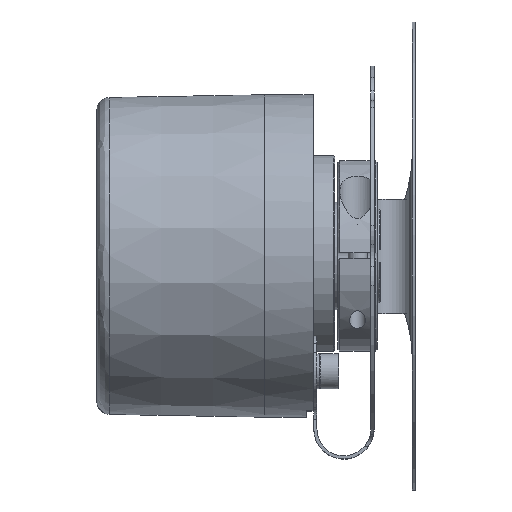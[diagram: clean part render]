
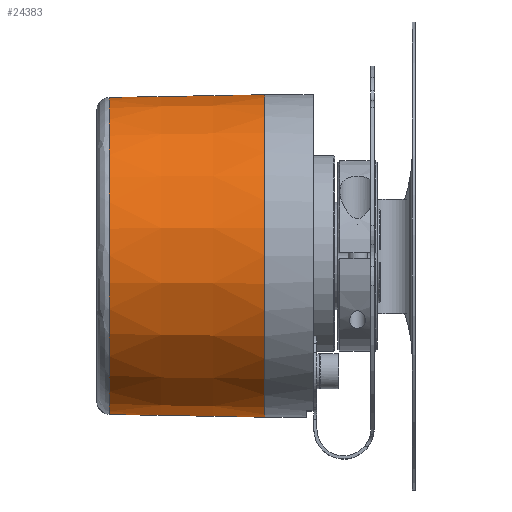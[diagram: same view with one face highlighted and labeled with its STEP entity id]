
A CAD part, top view. The second image highlights one B-rep face of the part: STEP entity #24383.
In plain terms, the highlighted conical face has half-angle 1 degrees and reference radius 25.4 mm.
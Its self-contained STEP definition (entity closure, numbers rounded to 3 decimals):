
#1918 = CARTESIAN_POINT ( 'NONE',  ( 4.375, 15.953, -19.741 ) ) ;
#2340 = VERTEX_POINT ( 'NONE', #3000 ) ;
#2369 = DIRECTION ( 'NONE',  ( 0., 0., 1. ) ) ;
#2432 = CARTESIAN_POINT ( 'NONE',  ( -19., 16.728, -18.542 ) ) ;
#2462 = CARTESIAN_POINT ( 'NONE',  ( -19.012, 16.728, -18.541 ) ) ;
#2571 = CARTESIAN_POINT ( 'NONE',  ( -19.035, 16.728, -18.541 ) ) ;
#2640 = CARTESIAN_POINT ( 'NONE',  ( -19.023, 16.728, -18.541 ) ) ;
#3000 = CARTESIAN_POINT ( 'NONE',  ( 5.5, 12.989, -21.828 ) ) ;
#4783 = CARTESIAN_POINT ( 'NONE',  ( 4.727, -15.562, -20.058 ) ) ;
#5470 = ORIENTED_EDGE ( 'NONE', *, *, #16335, .F. ) ;
#6089 = ORIENTED_EDGE ( 'NONE', *, *, #15688, .T. ) ;
#6221 = CARTESIAN_POINT ( 'NONE',  ( 3.5, 16.319, -19.418 ) ) ;
#6304 = VERTEX_POINT ( 'NONE', #9780 ) ;
#6505 = VERTEX_POINT ( 'NONE', #6221 ) ;
#6628 = FACE_OUTER_BOUND ( 'NONE', #15445, .T. ) ;
#7233 = CARTESIAN_POINT ( 'NONE',  ( -19., -16.728, -18.542 ) ) ;
#7583 = CARTESIAN_POINT ( 'NONE',  ( 5.317, -14.347, -20.96 ) ) ;
#8033 = CARTESIAN_POINT ( 'NONE',  ( 3.5, -16.319, -19.418 ) ) ;
#8344 = CARTESIAN_POINT ( 'NONE',  ( -19.035, -16.728, -18.541 ) ) ;
#8346 = VERTEX_POINT ( 'NONE', #7233 ) ;
#8371 = CARTESIAN_POINT ( 'NONE',  ( -19.023, -16.728, -18.541 ) ) ;
#8457 = CARTESIAN_POINT ( 'NONE',  ( -19., -16.728, -18.542 ) ) ;
#8575 = CARTESIAN_POINT ( 'NONE',  ( -19.012, -16.728, -18.541 ) ) ;
#9780 = CARTESIAN_POINT ( 'NONE',  ( 5.5, -12.989, -21.828 ) ) ;
#10687 = AXIS2_PLACEMENT_3D ( 'NONE', #14669, #14513, #14346 ) ;
#11761 = B_SPLINE_CURVE_WITH_KNOTS ( 'NONE', 3,
 ( #2571, #2640, #2462, #2432 ),
 .UNSPECIFIED., .F., .F.,
 ( 4, 4 ),
 ( 0., 0. ),
 .UNSPECIFIED. ) ;
#12071 = B_SPLINE_CURVE_WITH_KNOTS ( 'NONE', 3,
 ( #8457, #8575, #8371, #8344 ),
 .UNSPECIFIED., .F., .F.,
 ( 4, 4 ),
 ( 0., 0. ),
 .UNSPECIFIED. ) ;
#12202 = AXIS2_PLACEMENT_3D ( 'NONE', #15141, #15113, #2369 ) ;
#12604 = B_SPLINE_CURVE_WITH_KNOTS ( 'NONE', 3,
 ( #14097, #14120, #13986, #13945 ),
 .UNSPECIFIED., .F., .F.,
 ( 4, 4 ),
 ( 0., 1. ),
 .UNSPECIFIED. ) ;
#12734 = B_SPLINE_CURVE_WITH_KNOTS ( 'NONE', 3,
 ( #16376, #16420, #16339, #16301 ),
 .UNSPECIFIED., .F., .F.,
 ( 4, 4 ),
 ( 0., 1. ),
 .UNSPECIFIED. ) ;
#12821 = B_SPLINE_CURVE_WITH_KNOTS ( 'NONE', 3,
 ( #18887, #18593, #18357, #18328, #18285, #18280, #18252, #18218, #4783, #18204, #18192, #18169, #7583, #18162, #18129, #18104 ),
 .UNSPECIFIED., .F., .F.,
 ( 4, 2, 2, 2, 2, 2, 2, 4 ),
 ( 0., 0.001, 0.001, 0.001, 0.002, 0.002, 0.004, 0.005 ),
 .UNSPECIFIED. ) ;
#12907 = B_SPLINE_CURVE_WITH_KNOTS ( 'NONE', 3,
 ( #20776, #20796, #20635, #20615, #20608, #20590, #20583, #20549, #20529, #1918, #20497, #20492, #20426, #20421, #20380, #20374 ),
 .UNSPECIFIED., .F., .F.,
 ( 4, 2, 2, 2, 2, 2, 2, 4 ),
 ( 0., 0.001, 0.002, 0.003, 0.004, 0.004, 0.005, 0.005 ),
 .UNSPECIFIED. ) ;
#13083 = AXIS2_PLACEMENT_3D ( 'NONE', #18752, #18748, #18724 ) ;
#13136 = ORIENTED_EDGE ( 'NONE', *, *, #15224, .T. ) ;
#13579 = ORIENTED_EDGE ( 'NONE', *, *, #15492, .T. ) ;
#13945 = CARTESIAN_POINT ( 'NONE',  ( -19., 16.728, -18.542 ) ) ;
#13986 = CARTESIAN_POINT ( 'NONE',  ( -11.827, 16.592, -18.833 ) ) ;
#14097 = CARTESIAN_POINT ( 'NONE',  ( 3.5, 16.319, -19.418 ) ) ;
#14120 = CARTESIAN_POINT ( 'NONE',  ( -4.327, 16.456, -19.125 ) ) ;
#14346 = DIRECTION ( 'NONE',  ( 0., 1., 0. ) ) ;
#14513 = DIRECTION ( 'NONE',  ( 1., 0., 0. ) ) ;
#14669 = CARTESIAN_POINT ( 'NONE',  ( 5.5, 0., 0. ) ) ;
#15113 = DIRECTION ( 'NONE',  ( 1., 0., 0. ) ) ;
#15141 = CARTESIAN_POINT ( 'NONE',  ( -19.035, 0., 0. ) ) ;
#15224 = EDGE_CURVE ( 'NONE', #2340, #6505, #12907, .T. ) ;
#15420 = EDGE_CURVE ( 'NONE', #6304, #2340, #18362, .T. ) ;
#15445 = EDGE_LOOP ( 'NONE', ( #23150, #13136, #15451, #24748, #6089, #5470, #17338, #13579 ) ) ;
#15451 = ORIENTED_EDGE ( 'NONE', *, *, #15841, .T. ) ;
#15492 = EDGE_CURVE ( 'NONE', #19748, #6304, #12821, .T. ) ;
#15606 = EDGE_CURVE ( 'NONE', #8346, #19748, #12734, .T. ) ;
#15688 = EDGE_CURVE ( 'NONE', #19406, #20213, #23885, .T. ) ;
#15841 = EDGE_CURVE ( 'NONE', #6505, #17312, #12604, .T. ) ;
#16301 = CARTESIAN_POINT ( 'NONE',  ( 3.5, -16.319, -19.418 ) ) ;
#16335 = EDGE_CURVE ( 'NONE', #8346, #20213, #12071, .T. ) ;
#16339 = CARTESIAN_POINT ( 'NONE',  ( -4.327, -16.456, -19.125 ) ) ;
#16376 = CARTESIAN_POINT ( 'NONE',  ( -19., -16.728, -18.542 ) ) ;
#16420 = CARTESIAN_POINT ( 'NONE',  ( -11.827, -16.592, -18.833 ) ) ;
#16643 = EDGE_CURVE ( 'NONE', #19406, #17312, #11761, .T. ) ;
#17312 = VERTEX_POINT ( 'NONE', #21099 ) ;
#17338 = ORIENTED_EDGE ( 'NONE', *, *, #15606, .T. ) ;
#18104 = CARTESIAN_POINT ( 'NONE',  ( 5.5, -12.989, -21.828 ) ) ;
#18129 = CARTESIAN_POINT ( 'NONE',  ( 5.5, -13.341, -21.618 ) ) ;
#18162 = CARTESIAN_POINT ( 'NONE',  ( 5.461, -13.682, -21.403 ) ) ;
#18169 = CARTESIAN_POINT ( 'NONE',  ( 5.21, -14.672, -20.731 ) ) ;
#18192 = CARTESIAN_POINT ( 'NONE',  ( 4.995, -15.13, -20.392 ) ) ;
#18204 = CARTESIAN_POINT ( 'NONE',  ( 4.914, -15.278, -20.28 ) ) ;
#18218 = CARTESIAN_POINT ( 'NONE',  ( 4.62, -15.701, -19.947 ) ) ;
#18251 = CARTESIAN_POINT ( 'NONE',  ( -19.035, -16.728, -18.541 ) ) ;
#18252 = CARTESIAN_POINT ( 'NONE',  ( 4.436, -15.89, -19.792 ) ) ;
#18280 = CARTESIAN_POINT ( 'NONE',  ( 4.37, -15.95, -19.742 ) ) ;
#18285 = CARTESIAN_POINT ( 'NONE',  ( 4.228, -16.062, -19.648 ) ) ;
#18328 = CARTESIAN_POINT ( 'NONE',  ( 4.151, -16.115, -19.603 ) ) ;
#18357 = CARTESIAN_POINT ( 'NONE',  ( 3.902, -16.252, -19.484 ) ) ;
#18362 = CIRCLE ( 'NONE', #13083, 25.4 ) ;
#18440 = CARTESIAN_POINT ( 'NONE',  ( -19.035, 16.728, -18.541 ) ) ;
#18593 = CARTESIAN_POINT ( 'NONE',  ( 3.708, -16.315, -19.426 ) ) ;
#18724 = DIRECTION ( 'NONE',  ( 0., 1., 0. ) ) ;
#18748 = DIRECTION ( 'NONE',  ( -1., 0., 0. ) ) ;
#18752 = CARTESIAN_POINT ( 'NONE',  ( 5.5, 0., 0. ) ) ;
#18887 = CARTESIAN_POINT ( 'NONE',  ( 3.5, -16.319, -19.418 ) ) ;
#19116 = CONICAL_SURFACE ( 'NONE', #10687, 25.4, 0.017 ) ;
#19406 = VERTEX_POINT ( 'NONE', #18440 ) ;
#19748 = VERTEX_POINT ( 'NONE', #8033 ) ;
#20213 = VERTEX_POINT ( 'NONE', #18251 ) ;
#20374 = CARTESIAN_POINT ( 'NONE',  ( 3.5, 16.319, -19.418 ) ) ;
#20380 = CARTESIAN_POINT ( 'NONE',  ( 3.603, 16.317, -19.422 ) ) ;
#20421 = CARTESIAN_POINT ( 'NONE',  ( 3.705, 16.3, -19.439 ) ) ;
#20426 = CARTESIAN_POINT ( 'NONE',  ( 3.895, 16.245, -19.489 ) ) ;
#20492 = CARTESIAN_POINT ( 'NONE',  ( 3.985, 16.206, -19.524 ) ) ;
#20497 = CARTESIAN_POINT ( 'NONE',  ( 4.234, 16.07, -19.642 ) ) ;
#20529 = CARTESIAN_POINT ( 'NONE',  ( 4.619, 15.701, -19.947 ) ) ;
#20549 = CARTESIAN_POINT ( 'NONE',  ( 4.726, 15.564, -20.057 ) ) ;
#20583 = CARTESIAN_POINT ( 'NONE',  ( 4.914, 15.278, -20.28 ) ) ;
#20590 = CARTESIAN_POINT ( 'NONE',  ( 4.995, 15.129, -20.393 ) ) ;
#20608 = CARTESIAN_POINT ( 'NONE',  ( 5.211, 14.67, -20.733 ) ) ;
#20615 = CARTESIAN_POINT ( 'NONE',  ( 5.318, 14.345, -20.961 ) ) ;
#20635 = CARTESIAN_POINT ( 'NONE',  ( 5.461, 13.682, -21.403 ) ) ;
#20776 = CARTESIAN_POINT ( 'NONE',  ( 5.5, 12.989, -21.828 ) ) ;
#20796 = CARTESIAN_POINT ( 'NONE',  ( 5.5, 13.341, -21.618 ) ) ;
#21099 = CARTESIAN_POINT ( 'NONE',  ( -19., 16.728, -18.542 ) ) ;
#23150 = ORIENTED_EDGE ( 'NONE', *, *, #15420, .T. ) ;
#23885 = CIRCLE ( 'NONE', #12202, 24.972 ) ;
#24383 = ADVANCED_FACE ( 'NONE', ( #6628 ), #19116, .T. ) ;
#24748 = ORIENTED_EDGE ( 'NONE', *, *, #16643, .F. ) ;
